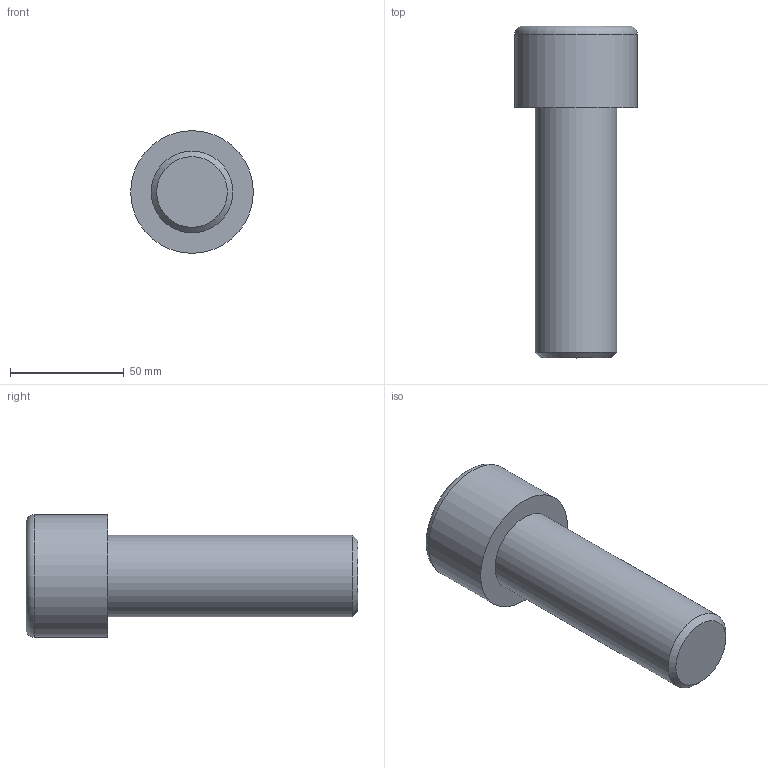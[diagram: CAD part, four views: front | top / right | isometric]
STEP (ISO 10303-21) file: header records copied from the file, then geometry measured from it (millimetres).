
FILE_DESCRIPTION(/* description */ (''),/* implementation_level */ '2;1');
FILE_NAME(/* name */ 'C:\Users\D\Documents\Inventor\各種小物\JIS\JIS B 1176 六角穴付きボルト\M36x110.stp',/* time_stamp */ '2022-05-09T19:04:07+09:00',/* author */ ('D'),/* organization */ (''),/* preprocessor_version */ 'ST-DEVELOPER v18',/* originating_system */ 'Autodesk Inventor 2020',/* authorisation */ '');
FILE_SCHEMA (('AUTOMOTIVE_DESIGN { 1 0 10303 214 3 1 1 }'));
Length unit declared in the file: millimetre
Products named in the file (1): M1.6x2.5
Bounding box: 54 x 146 x 54 mm (x, y, z)
Volume: 179409.8 mm3; surface area: 24639.2 mm2
Topology: 1 solids, 1 shells, 14 faces, 33 edges, 22 vertices
Faces by surface type: plane 9, cone 2, cylinder 2, torus 1
Full cylindrical faces by diameter (mm): 36 x1, 54 x1
Entity records: 435 total; most frequent: CARTESIAN_POINT 83, ORIENTED_EDGE 64, DIRECTION 64, EDGE_CURVE 32, AXIS2_PLACEMENT_3D 24, VERTEX_POINT 22, EDGE_LOOP 16, LINE 16
